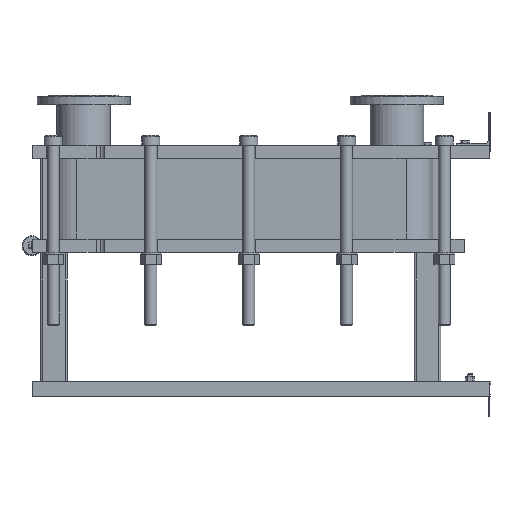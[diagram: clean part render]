
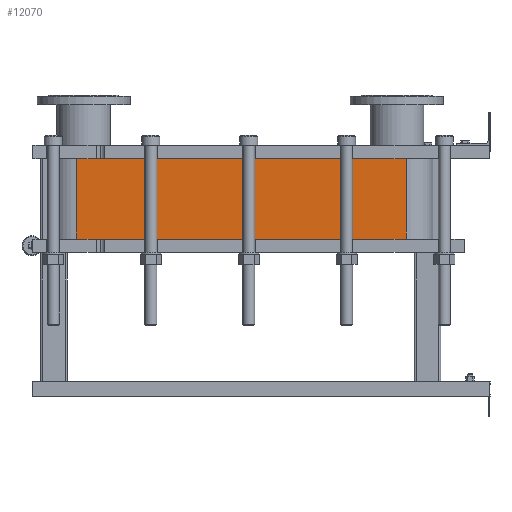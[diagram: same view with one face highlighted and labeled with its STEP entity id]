
A CAD part, left-side view. The second image highlights one B-rep face of the part: STEP entity #12070.
In plain terms, the highlighted planar face has unit normal (-1, 0, 0).
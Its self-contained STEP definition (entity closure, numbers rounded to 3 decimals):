
#1064=LINE('',#21140,#2164);
#1065=LINE('',#21144,#2165);
#1066=LINE('',#21146,#2166);
#1067=LINE('',#21147,#2167);
#2164=VECTOR('',#15790,10.);
#2165=VECTOR('',#15795,10.);
#2166=VECTOR('',#15796,10.);
#2167=VECTOR('',#15797,10.);
#3304=FACE_OUTER_BOUND('',#4091,.T.);
#4091=EDGE_LOOP('',(#9793,#9794,#9795,#9796));
#5677=VERTEX_POINT('',#21137);
#5678=VERTEX_POINT('',#21139);
#5679=VERTEX_POINT('',#21143);
#5680=VERTEX_POINT('',#21145);
#7118=EDGE_CURVE('',#5678,#5677,#1064,.T.);
#7120=EDGE_CURVE('',#5677,#5679,#1065,.T.);
#7121=EDGE_CURVE('',#5680,#5679,#1066,.T.);
#7122=EDGE_CURVE('',#5680,#5678,#1067,.T.);
#9793=ORIENTED_EDGE('',*,*,#7120,.T.);
#9794=ORIENTED_EDGE('',*,*,#7121,.F.);
#9795=ORIENTED_EDGE('',*,*,#7122,.T.);
#9796=ORIENTED_EDGE('',*,*,#7118,.T.);
#11441=PLANE('',#13191);
#12070=ADVANCED_FACE('',(#3304),#11441,.T.);
#13191=AXIS2_PLACEMENT_3D('',#21142,#15793,#15794);
#15790=DIRECTION('',(0.,0.,-1.));
#15793=DIRECTION('center_axis',(-1.,0.,0.));
#15794=DIRECTION('ref_axis',(0.,1.,0.));
#15795=DIRECTION('',(0.,-1.,0.));
#15796=DIRECTION('',(0.,0.,-1.));
#15797=DIRECTION('',(0.,1.,0.));
#21137=CARTESIAN_POINT('',(-248.152,1243.818,-241.5));
#21139=CARTESIAN_POINT('',(-248.152,1243.818,0.));
#21140=CARTESIAN_POINT('',(-248.152,1243.818,0.));
#21142=CARTESIAN_POINT('Origin',(-248.152,251.818,0.));
#21143=CARTESIAN_POINT('',(-248.152,251.818,-241.5));
#21144=CARTESIAN_POINT('',(-248.152,499.818,-241.5));
#21145=CARTESIAN_POINT('',(-248.152,251.818,0.));
#21146=CARTESIAN_POINT('',(-248.152,251.818,0.));
#21147=CARTESIAN_POINT('',(-248.152,251.818,0.));
